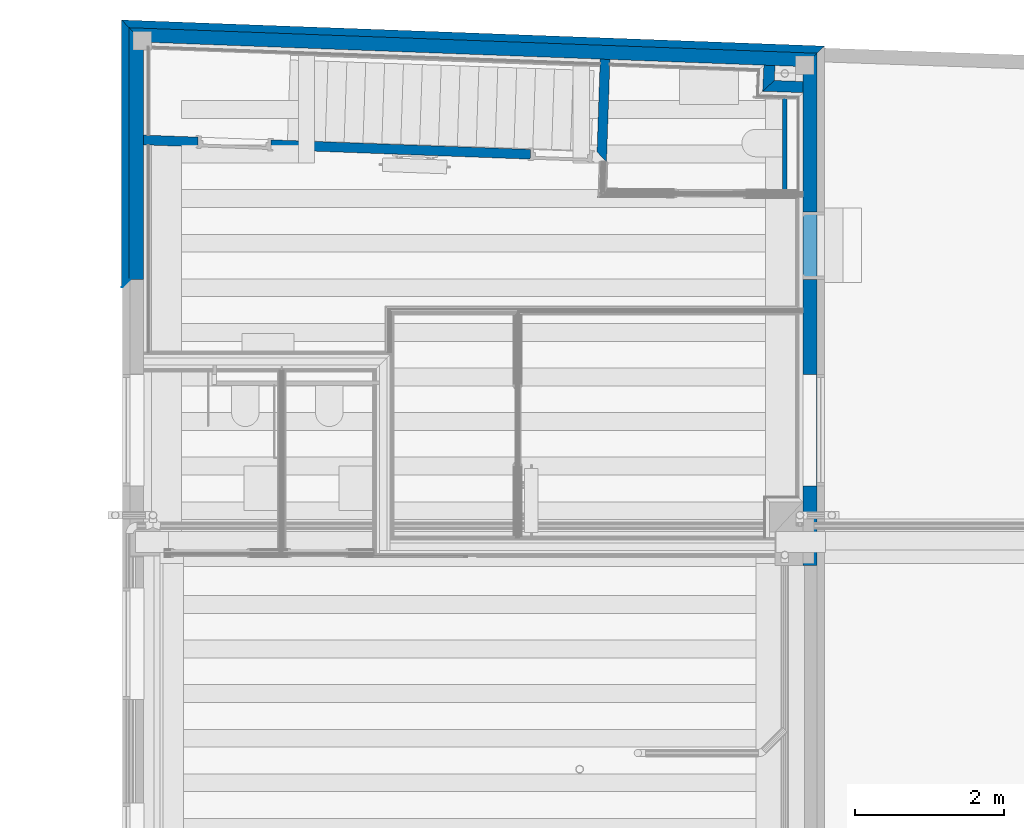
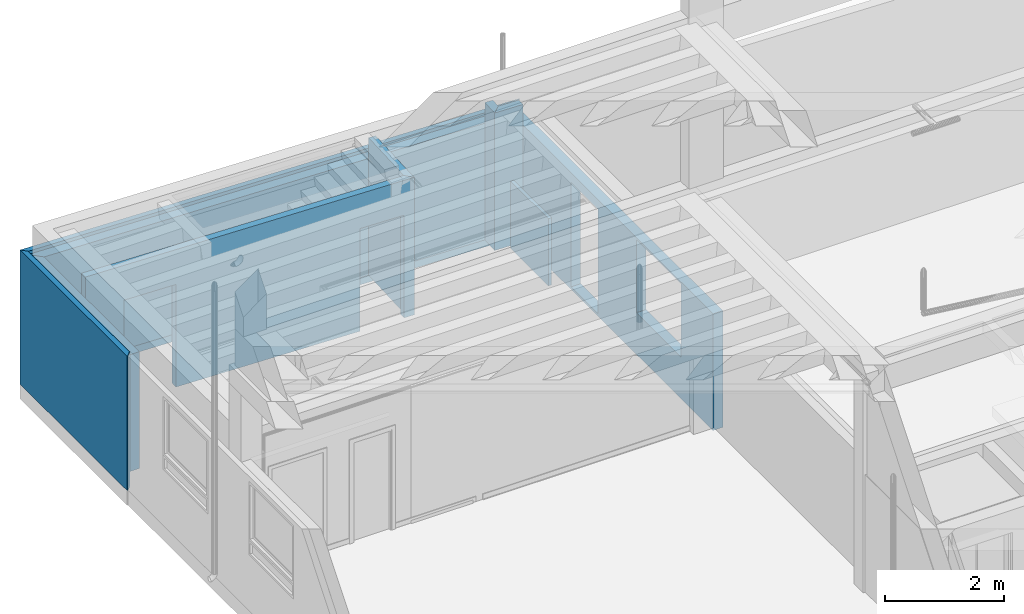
# One storey, part 10 of 106: 11 walls, 4 openings.
"""IFC2X3 building model written with IfcOpenShell, lengths in metres."""

from ifc_helpers import new_model, entity, si_unit, converted_unit, derived_unit, money_unit, direction, frame, frame_2d, origin_with_axes, place, context, subcontext, project, spatial, polyline, rectangle, outline, extrude, material, layer, layer_set, layer_usage, type_object, element, save


model = new_model("IFC2X3")

# Units and contexts
model_context = context("Model", 3, precision=1e-05, world=origin_with_axes(), true_north=direction((0.0, 1.0)))
body_context = subcontext(model_context, "Body", "Model", "MODEL_VIEW", scale=1.0)
ifc_project = project(units=[si_unit("LENGTHUNIT", "METRE"), si_unit("AREAUNIT", "SQUARE_METRE"), si_unit("VOLUMEUNIT", "CUBIC_METRE"), si_unit("ABSORBEDDOSEUNIT", "GRAY"), si_unit("AMOUNTOFSUBSTANCEUNIT", "MOLE"), si_unit("DOSEEQUIVALENTUNIT", "SIEVERT"), si_unit("ELECTRICCAPACITANCEUNIT", "FARAD"), si_unit("ELECTRICCHARGEUNIT", "COULOMB"), si_unit("ELECTRICCONDUCTANCEUNIT", "SIEMENS"), si_unit("ELECTRICCURRENTUNIT", "AMPERE"), si_unit("ELECTRICRESISTANCEUNIT", "OHM"), si_unit("ELECTRICVOLTAGEUNIT", "VOLT"), si_unit("ENERGYUNIT", "JOULE"), si_unit("FORCEUNIT", "NEWTON"), si_unit("FREQUENCYUNIT", "HERTZ"), si_unit("ILLUMINANCEUNIT", "LUX"), si_unit("INDUCTANCEUNIT", "HENRY"), si_unit("LUMINOUSFLUXUNIT", "LUMEN"), si_unit("LUMINOUSINTENSITYUNIT", "CANDELA"), si_unit("MAGNETICFLUXDENSITYUNIT", "TESLA"), si_unit("MAGNETICFLUXUNIT", "WEBER"), si_unit("MASSUNIT", "GRAM"), converted_unit("PLANEANGLEUNIT", "degree", entity("IfcReal", 0.0174532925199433), si_unit("PLANEANGLEUNIT", "RADIAN"), dimensions=[0, 0, 0, 0, 0, 0, 0]), si_unit("POWERUNIT", "WATT"), si_unit("PRESSUREUNIT", "PASCAL"), si_unit("RADIOACTIVITYUNIT", "BECQUEREL"), si_unit("SOLIDANGLEUNIT", "STERADIAN"), si_unit("THERMODYNAMICTEMPERATUREUNIT", "KELVIN"), si_unit("TIMEUNIT", "SECOND"), derived_unit("ACCELERATIONUNIT", [(si_unit("LENGTHUNIT", "METRE"), 1), (si_unit("TIMEUNIT", "SECOND"), -2)]), derived_unit("ANGULARVELOCITYUNIT", [(converted_unit("PLANEANGLEUNIT", "degree", entity("IfcReal", 0.0174532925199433), si_unit("PLANEANGLEUNIT", "RADIAN"), dimensions=[0, 0, 0, 0, 0, 0, 0]), 1), (si_unit("TIMEUNIT", "SECOND"), -1)]), derived_unit("CURVATUREUNIT", [(converted_unit("PLANEANGLEUNIT", "degree", entity("IfcReal", 0.0174532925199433), si_unit("PLANEANGLEUNIT", "RADIAN"), dimensions=[0, 0, 0, 0, 0, 0, 0]), 1), (si_unit("LENGTHUNIT", "METRE"), -1)]), derived_unit("DYNAMICVISCOSITYUNIT", [(si_unit("PRESSUREUNIT", "PASCAL"), 1), (si_unit("TIMEUNIT", "SECOND"), 1)]), derived_unit("HEATFLUXDENSITYUNIT", [(si_unit("POWERUNIT", "WATT"), 1), (si_unit("LENGTHUNIT", "METRE"), -2)]), derived_unit("HEATINGVALUEUNIT", [(si_unit("ENERGYUNIT", "JOULE"), 1), (si_unit("MASSUNIT", "GRAM"), -1)]), derived_unit("INTEGERCOUNTRATEUNIT", [(si_unit("TIMEUNIT", "SECOND"), -1)]), derived_unit("IONCONCENTRATIONUNIT", [(si_unit("MASSUNIT", "GRAM"), 1), (si_unit("VOLUMEUNIT", "CUBIC_METRE"), -1)]), derived_unit("ISOTHERMALMOISTURECAPACITYUNIT", [(si_unit("VOLUMEUNIT", "CUBIC_METRE"), 1), (si_unit("MASSUNIT", "GRAM"), -1)]), derived_unit("KINEMATICVISCOSITYUNIT", [(si_unit("AREAUNIT", "SQUARE_METRE"), 1), (si_unit("TIMEUNIT", "SECOND"), -1)]), derived_unit("LINEARFORCEUNIT", [(si_unit("FORCEUNIT", "NEWTON"), 1), (si_unit("LENGTHUNIT", "METRE"), -1)]), derived_unit("LINEARMOMENTUNIT", [(si_unit("FORCEUNIT", "NEWTON"), 1), (si_unit("LENGTHUNIT", "METRE"), -1)]), derived_unit("LINEARSTIFFNESSUNIT", [(si_unit("FORCEUNIT", "NEWTON"), 1), (si_unit("LENGTHUNIT", "METRE"), -1)]), derived_unit("LINEARVELOCITYUNIT", [(si_unit("LENGTHUNIT", "METRE"), 1), (si_unit("TIMEUNIT", "SECOND"), -1)]), derived_unit("LUMINOUSINTENSITYDISTRIBUTIONUNIT", [(si_unit("LUMINOUSINTENSITYUNIT", "CANDELA"), 1), (si_unit("LUMINOUSFLUXUNIT", "LUMEN"), -1)]), derived_unit("MASSDENSITYUNIT", [(si_unit("MASSUNIT", "GRAM"), 1), (si_unit("VOLUMEUNIT", "CUBIC_METRE"), -1)]), derived_unit("MASSFLOWRATEUNIT", [(si_unit("MASSUNIT", "GRAM"), 1), (si_unit("TIMEUNIT", "SECOND"), -1)]), derived_unit("MASSPERLENGTHUNIT", [(si_unit("MASSUNIT", "GRAM"), 1), (si_unit("LENGTHUNIT", "METRE"), -1)]), derived_unit("MODULUSOFELASTICITYUNIT", [(si_unit("FORCEUNIT", "NEWTON"), 1), (si_unit("AREAUNIT", "SQUARE_METRE"), -1)]), derived_unit("MODULUSOFLINEARSUBGRADEREACTIONUNIT", [(si_unit("FORCEUNIT", "NEWTON"), 1), (si_unit("LENGTHUNIT", "METRE"), -2)]), derived_unit("MODULUSOFROTATIONALSUBGRADEREACTIONUNIT", [(si_unit("FORCEUNIT", "NEWTON"), 1), (si_unit("LENGTHUNIT", "METRE"), 1)]), derived_unit("MODULUSOFSUBGRADEREACTIONUNIT", [(si_unit("FORCEUNIT", "NEWTON"), 1), (si_unit("VOLUMEUNIT", "CUBIC_METRE"), -1)]), derived_unit("MOISTUREDIFFUSIVITYUNIT", [(si_unit("VOLUMEUNIT", "CUBIC_METRE"), 1), (si_unit("TIMEUNIT", "SECOND"), -1)]), derived_unit("MOLECULARWEIGHTUNIT", [(si_unit("MASSUNIT", "GRAM"), 1), (si_unit("AMOUNTOFSUBSTANCEUNIT", "MOLE"), -1)]), derived_unit("PLANARFORCEUNIT", [(si_unit("FORCEUNIT", "NEWTON"), 1), (si_unit("LENGTHUNIT", "METRE"), -2)]), derived_unit("ROTATIONALFREQUENCYUNIT", [(si_unit("TIMEUNIT", "SECOND"), -1)]), derived_unit("ROTATIONALMASSUNIT", [(si_unit("MASSUNIT", "GRAM"), 1), (si_unit("LENGTHUNIT", "METRE"), 2)]), derived_unit("ROTATIONALSTIFFNESSUNIT", [(si_unit("FORCEUNIT", "NEWTON"), 1), (si_unit("LENGTHUNIT", "METRE"), 1), (converted_unit("PLANEANGLEUNIT", "degree", entity("IfcReal", 0.0174532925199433), si_unit("PLANEANGLEUNIT", "RADIAN"), dimensions=[0, 0, 0, 0, 0, 0, 0]), -1)]), derived_unit("SECTIONAREAINTEGRALUNIT", [(si_unit("LENGTHUNIT", "METRE"), 5)]), derived_unit("SECTIONMODULUSUNIT", [(si_unit("LENGTHUNIT", "METRE"), 3)]), derived_unit("SHEARMODULUSUNIT", [(si_unit("FORCEUNIT", "NEWTON"), 1), (si_unit("AREAUNIT", "SQUARE_METRE"), -1)]), derived_unit("SOUNDPOWERUNIT", [(si_unit("ENERGYUNIT", "JOULE"), 1), (si_unit("TIMEUNIT", "SECOND"), -1)]), derived_unit("SPECIFICHEATCAPACITYUNIT", [(si_unit("FORCEUNIT", "NEWTON"), 1), (si_unit("MASSUNIT", "GRAM"), -1), (si_unit("THERMODYNAMICTEMPERATUREUNIT", "KELVIN"), -1)]), derived_unit("TEMPERATUREGRADIENTUNIT", [(si_unit("THERMODYNAMICTEMPERATUREUNIT", "KELVIN"), 1), (si_unit("LENGTHUNIT", "METRE"), -1)]), derived_unit("THERMALADMITTANCEUNIT", [(si_unit("POWERUNIT", "WATT"), 1), (si_unit("AREAUNIT", "SQUARE_METRE"), -1), (si_unit("THERMODYNAMICTEMPERATUREUNIT", "KELVIN"), -1)]), derived_unit("THERMALCONDUCTANCEUNIT", [(si_unit("POWERUNIT", "WATT"), 1), (si_unit("LENGTHUNIT", "METRE"), -1), (si_unit("THERMODYNAMICTEMPERATUREUNIT", "KELVIN"), -1)]), derived_unit("THERMALEXPANSIONCOEFFICIENTUNIT", [(si_unit("THERMODYNAMICTEMPERATUREUNIT", "KELVIN"), -1)]), derived_unit("THERMALRESISTANCEUNIT", [(si_unit("AREAUNIT", "SQUARE_METRE"), 1), (si_unit("POWERUNIT", "WATT"), -1)]), derived_unit("THERMALTRANSMITTANCEUNIT", [(si_unit("POWERUNIT", "WATT"), 1), (si_unit("AREAUNIT", "SQUARE_METRE"), -1), (si_unit("THERMODYNAMICTEMPERATUREUNIT", "KELVIN"), -1)]), derived_unit("TORQUEUNIT", [(si_unit("FORCEUNIT", "NEWTON"), 1), (si_unit("LENGTHUNIT", "METRE"), 1)]), derived_unit("VAPORPERMEABILITYUNIT", [(si_unit("MASSUNIT", "GRAM"), 1), (si_unit("TIMEUNIT", "SECOND"), -1)]), derived_unit("VOLUMETRICFLOWRATEUNIT", [(si_unit("VOLUMEUNIT", "CUBIC_METRE"), 1), (si_unit("TIMEUNIT", "SECOND"), -1)]), derived_unit("WARPINGCONSTANTUNIT", [(si_unit("LENGTHUNIT", "METRE"), 6)]), derived_unit("WARPINGMOMENTUNIT", [(si_unit("FORCEUNIT", "NEWTON"), 1), (si_unit("LENGTHUNIT", "METRE"), 2)]), money_unit("GBP")], contexts=[model_context])

# Site, building, storey
site_placement = place(None, origin_with_axes())
site = spatial("IfcSite", under=ifc_project, at=site_placement, Name="Site", CompositionType="ELEMENT")
building_placement = place(site_placement, origin_with_axes())
building = spatial("IfcBuilding", under=site, at=building_placement, Name="Building01", CompositionType="ELEMENT")
storey_placement = place(building_placement, origin_with_axes())
storey = spatial("IfcBuildingStorey", under=building, at=storey_placement, Name="GF", CompositionType="ELEMENT", Elevation=0.0)

# Walls
ifc_material_1 = material(Name="A_BSUK_WallsExternal_Brick")
ifc_layer_1 = layer(ifc_material_1, 0.1, ventilated=False)
ifc_layer_set_1 = layer_set([ifc_layer_1])
ifc_layer_usage_1 = layer_usage(ifc_layer_set_1, "AXIS2", "POSITIVE", 0.0)
wall_type_1 = type_object("IfcWallType", Name="A-Walls-ExternalBrick", PredefinedType="NOTDEFINED")
wall_1_placement = place(storey_placement, frame((9.4435, 21.262408, -0.145), z_axis=(0.0, 0.0, 1.0), x_axis=(-0.99931258, 0.03707243, 0.0)))
element("IfcWallStandardCase", 1, at=wall_1_placement, inside=storey, type_object=wall_type_1, material=ifc_layer_usage_1, Name="A-Walls-ExternalBrick", ObjectType="A-Walls-ExternalBrick", context=body_context, shape_type="SweptSolid", body=[
    extrude(outline(polyline([(9.35991, 0.1), (0.096363, 0.1), (0.0, 0.0), (9.463689, 0.0), (9.35991, 0.1)])), origin_with_axes(), (0.0, 0.0, 1.0), 2.745),
])
wall_2_placement = place(storey_placement, frame((-0.013684, 21.61325, -0.145), z_axis=(0.0, 0.0, 1.0), x_axis=(0.0, -1.0, 0.0)))
element("IfcWallStandardCase", 2, at=wall_2_placement, inside=storey, type_object=wall_type_1, material=ifc_layer_usage_1, Name="A-Walls-ExternalBrick", ObjectType="A-Walls-ExternalBrick", context=body_context, shape_type="SweptSolid", body=[
    extrude(outline(polyline([(3.493021, 0.1), (0.103779, 0.1), (0.0, 0.0), (3.593021, 0.0), (3.493021, 0.1)])), origin_with_axes(), (0.0, 0.0, 1.0), 2.745),
])
wall_3_placement = place(storey_placement, frame((-0.013684, 18.020229, -0.145), z_axis=(0.0, 0.0, 1.0), x_axis=(1.0, 0.0, 0.0)))
element("IfcWallStandardCase", 3, at=wall_3_placement, inside=storey, type_object=wall_type_1, material=ifc_layer_usage_1, Name="A-Walls-ExternalBrick", ObjectType="A-Walls-ExternalBrick", context=body_context, shape_type="SweptSolid", body=[
    extrude(outline(polyline([(0.114364, 0.1), (0.1, 0.1), (0.0, 0.0), (0.014361, 0.0), (0.114364, 0.1)])), origin_with_axes(), (0.0, 0.0, 1.0), 2.745),
])
ifc_material_2 = material(Name="A_BSUK_WallsExternal_Block")
ifc_layer_2 = layer(ifc_material_2, 0.187, ventilated=False)
ifc_layer_set_2 = layer_set([ifc_layer_2])
ifc_layer_usage_2 = layer_usage(ifc_layer_set_2, "AXIS2", "POSITIVE", 0.0)
wall_type_2 = type_object("IfcWallType", Name="A-Walls-ExternalBlock", PredefinedType="NOTDEFINED")
wall_4_placement = place(storey_placement, frame((9.343265, 21.166058, 0.148), z_axis=(0.0, 0.0, 1.0), x_axis=(-0.99931258, 0.03707243, 0.0)))
element("IfcWallStandardCase", 4, at=wall_4_placement, inside=storey, type_object=wall_type_2, material=ifc_layer_usage_2, Name="A-Walls-ExternalBlock", ObjectType="A-Walls-ExternalBlock", context=body_context, shape_type="SweptSolid", body=[
    extrude(outline(polyline([(9.061665, 0.187), (0.182193, 0.187), (0.0, 0.0), (9.263736, 0.0), (9.061665, 0.187)])), origin_with_axes(), (0.0, 0.0, 1.0), 2.387),
])

# Wall, openings
ifc_layer_3 = layer(ifc_material_2, 0.189, ventilated=False)
ifc_layer_set_3 = layer_set([ifc_layer_3])
ifc_layer_usage_3 = layer_usage(ifc_layer_set_3, "AXIS2", "POSITIVE", 0.0)
wall_5_placement = place(storey_placement, frame((9.343265, 14.271539, 0.148), z_axis=(0.0, 0.0, 1.0), x_axis=(0.0, 1.0, 0.0)))
wall_5 = element("IfcWallStandardCase", 5, at=wall_5_placement, inside=storey, type_object=wall_type_2, material=ifc_layer_usage_3, Name="A-Walls-ExternalBlock", ObjectType="A-Walls-ExternalBlock", context=body_context, shape_type="SweptSolid", body=[
    extrude(outline(polyline([(6.714401, 0.189), (0.0, 0.189), (0.0, 0.0), (6.894519, 0.0), (6.714401, 0.189)])), origin_with_axes(), (0.0, 0.0, 1.0), 2.387),
])
opening_1_placement = place(wall_5_placement, frame((1.073273, 0.0, 0.85), z_axis=(0.0, 0.0, 1.0), x_axis=(1.0, 0.0, 0.0)))
element("IfcOpeningElement", 6, at=opening_1_placement, cuts=wall_5, Name="Opening", ObjectType="Opening", context=body_context, shape_type="SweptSolid", body=[
    extrude(rectangle(XDim=1.5, YDim=1.5, at=frame_2d((-0.75, 0.75), x_axis=(1.0, 0.0))), frame((0.0, 0.0, 0.0), z_axis=(0.0, 1.0, 0.0), x_axis=(-1.0, 0.0, 0.0)), (0.0, 0.0, 1.0), 0.189),
])
opening_2_placement = place(wall_5_placement, frame((3.852568, 0.0, 0.05), z_axis=(0.0, 0.0, 1.0), x_axis=(1.0, 0.0, 0.0)))
element("IfcOpeningElement", 7, at=opening_2_placement, cuts=wall_5, Name="Opening", ObjectType="Opening", context=body_context, shape_type="SweptSolid", body=[
    extrude(rectangle(XDim=2.142, YDim=0.909, at=frame_2d((-0.4545, 1.071), x_axis=(0.0, -1.0))), frame((0.0, 0.0, 0.0), z_axis=(0.0, 1.0, 0.0), x_axis=(-1.0, 0.0, 0.0)), (0.0, 0.0, 1.0), 0.189),
])

# Wall
ifc_layer_4 = layer(ifc_material_2, 0.195, ventilated=False)
ifc_layer_set_4 = layer_set([ifc_layer_4])
ifc_layer_usage_4 = layer_usage(ifc_layer_set_4, "AXIS2", "POSITIVE", 0.0)
wall_6_placement = place(storey_placement, frame((0.280897, 18.120222, 0.148), z_axis=(0.0, 0.0, 1.0), x_axis=(0.0, 1.0, 0.0)))
element("IfcWallStandardCase", 8, at=wall_6_placement, inside=storey, type_object=wall_type_2, material=ifc_layer_usage_4, Name="A-Walls-ExternalBlock", ObjectType="A-Walls-ExternalBlock", context=body_context, shape_type="SweptSolid", body=[
    extrude(outline(polyline([(3.389265, 0.195), (0.0, 0.195), (0.0, 0.0), (3.194902, 0.0), (3.389265, 0.195)])), origin_with_axes(), (0.0, 0.0, 1.0), 2.387),
])

# Wall, openings
ifc_material_3 = material(Name="A_BSUK_WallsInternal_Block")
ifc_layer_5 = layer(ifc_material_3, 0.131, ventilated=False)
ifc_layer_set_5 = layer_set([ifc_layer_5])
ifc_layer_usage_5 = layer_usage(ifc_layer_set_5, "AXIS2", "POSITIVE", 0.0)
wall_type_3 = type_object("IfcWallType", Name="A-Walls-InternalBlock", PredefinedType="NOTDEFINED")
wall_7_placement = place(storey_placement, frame((6.383485, 19.838621, 0.148), z_axis=(0.0, 0.0, 1.0), x_axis=(-0.99931641, 0.03696906, 0.0)))
wall_7 = element("IfcWallStandardCase", 9, at=wall_7_placement, inside=storey, type_object=wall_type_3, material=ifc_layer_usage_5, Name="A-Walls-InternalBlock", ObjectType="A-Walls-InternalBlock", context=body_context, shape_type="SweptSolid", body=[
    extrude(outline(polyline([(6.101916, 0.131), (-0.131696, 0.131), (0.0, 0.0), (6.106763, 0.0), (6.101916, 0.131)])), origin_with_axes(), (0.0, 0.0, 1.0), 2.812),
])
opening_3_placement = place(wall_7_placement, frame((4.38669, 0.0, 0.0), z_axis=(0.0, 0.0, 1.0), x_axis=(1.0, 0.0, 0.0)))
element("IfcOpeningElement", 10, at=opening_3_placement, cuts=wall_7, Name="Opening", ObjectType="Opening", context=body_context, shape_type="SweptSolid", body=[
    extrude(rectangle(XDim=2.1, YDim=0.984, at=frame_2d((-0.492, 1.05), x_axis=(0.0, -1.0))), frame((0.0, 0.0, 0.0), z_axis=(0.0, 1.0, 0.0), x_axis=(-1.0, 0.0, 0.0)), (0.0, 0.0, 1.0), 0.131),
])
opening_4_placement = place(wall_7_placement, frame((0.061318, 0.0, 0.0), z_axis=(0.0, 0.0, 1.0), x_axis=(1.0, 0.0, 0.0)))
element("IfcOpeningElement", 11, at=opening_4_placement, cuts=wall_7, Name="Opening", ObjectType="Opening", context=body_context, shape_type="SweptSolid", body=[
    extrude(rectangle(XDim=2.1, YDim=0.834, at=frame_2d((-0.417, 1.05), x_axis=(0.0, -1.0))), frame((0.0, 0.0, 0.0), z_axis=(0.0, 1.0, 0.0), x_axis=(-1.0, 0.0, 0.0)), (0.0, 0.0, 1.0), 0.131),
])

# Walls
wall_8_placement = place(storey_placement, frame((6.510248, 19.702842, 0.148), z_axis=(0.0, 0.0, 1.0), x_axis=(0.03365301, 0.99943358, 0.0)))
element("IfcWallStandardCase", 12, at=wall_8_placement, inside=storey, type_object=wall_type_3, material=ifc_layer_usage_5, Name="A-Walls-InternalBlock", ObjectType="A-Walls-InternalBlock", context=body_context, shape_type="SweptSolid", body=[
    extrude(outline(polyline([(1.380693, 0.131), (0.131175, 0.131), (0.0, 0.0), (1.380245, 0.0), (1.380693, 0.131)])), origin_with_axes(), (0.0, 0.0, 1.0), 2.812),
])
ifc_material_4 = material(Name="A_BSUK_WallsInternal")
ifc_layer_6 = layer(ifc_material_4, 0.15, ventilated=False)
ifc_layer_set_6 = layer_set([ifc_layer_6])
ifc_layer_usage_6 = layer_usage(ifc_layer_set_6, "AXIS2", "POSITIVE", 0.0)
wall_type_4 = type_object("IfcWallType", Name="A-Walls-Internal", PredefinedType="NOTDEFINED")
wall_9_placement = place(storey_placement, frame((8.628099, 21.00546, 0.148), z_axis=(0.0, 0.0, 1.0), x_axis=(-0.04616624, -0.99893377, 0.0)))
element("IfcWallStandardCase", 13, at=wall_9_placement, inside=storey, type_object=wall_type_4, material=ifc_layer_usage_6, Name="A-Walls-Internal", ObjectType="A-Walls-Internal", context=body_context, shape_type="SweptSolid", body=[
    extrude(outline(polyline([(0.199603, 0.15), (-0.001365, 0.15), (0.0, 0.0), (0.351255, 0.0), (0.199603, 0.15)])), origin_with_axes(), (0.0, 0.0, 1.0), 2.812),
])
wall_10_placement = place(storey_placement, frame((8.611883, 20.65458, 0.148), z_axis=(0.0, 0.0, 1.0), x_axis=(0.99937968, -0.03521735, 0.0)))
element("IfcWallStandardCase", 14, at=wall_10_placement, inside=storey, type_object=wall_type_4, material=ifc_layer_usage_6, Name="A-Walls-Internal", ObjectType="A-Walls-Internal", context=body_context, shape_type="SweptSolid", body=[
    extrude(outline(polyline([(0.537433, 0.15), (0.151653, 0.15), (0.0, 0.0), (0.542719, 0.0), (0.537433, 0.15)])), origin_with_axes(), (0.0, 0.0, 1.0), 2.812),
])
ifc_material_5 = material(Name="A_BSUK_OpeningsClearance")
ifc_layer_7 = layer(ifc_material_5, 0.05, ventilated=False)
ifc_material_6 = material(Name="A_BSUK_Walls_Timber")
ifc_layer_8 = layer(ifc_material_6, 0.015, ventilated=False)
ifc_layer_set_7 = layer_set([ifc_layer_7, ifc_layer_8])
ifc_layer_usage_7 = layer_usage(ifc_layer_set_7, "AXIS2", "POSITIVE", 0.0)
wall_type_5 = type_object("IfcWallType", Name="SHE_A-Walls_Type05c_PreWallShell_65mm", PredefinedType="NOTDEFINED")
wall_11_placement = place(storey_placement, frame((8.941265, 19.308916, 0.148), z_axis=(0.0, 0.0, 1.0), x_axis=(0.0, 1.0, 0.0)))
element("IfcWallStandardCase", 15, at=wall_11_placement, inside=storey, type_object=wall_type_5, material=ifc_layer_usage_7, Name="5C", ObjectType="SHE_A-Walls_Type05c_PreWallShell_65mm", context=body_context, shape_type="SweptSolid", body=[
    extrude(rectangle(XDim=0.065, YDim=1.265504, at=frame_2d((0.632752, 0.0325), x_axis=(0.0, 1.0))), origin_with_axes(), (0.0, 0.0, 1.0), 1.375),
])

save(model, "model.ifc")
